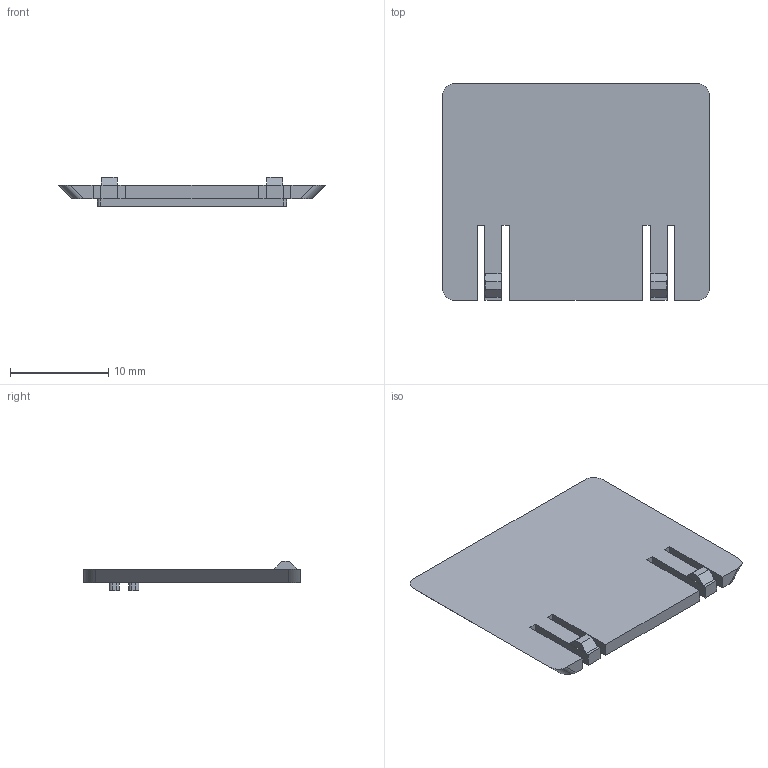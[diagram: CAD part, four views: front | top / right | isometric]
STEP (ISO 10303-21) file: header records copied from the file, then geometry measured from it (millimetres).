
FILE_DESCRIPTION(('Open CASCADE Model'),'2;1');
FILE_NAME('Open CASCADE Shape Model','2026-11-28T16:01:11',('Author'),( 'Open CASCADE'),'Open CASCADE STEP processor 8.0','build123d', 'Unknown');
FILE_SCHEMA(('AUTOMOTIVE_DESIGN { 1 0 10303 214 1 1 1 1 }'));
Length unit declared in the file: millimetre
Products named in the file (2): =>[0:1:1:2]; SOLID
Assembly tree (1 placements, depth 2):
  =>[0:1:1:2]
    SOLID
Bounding box: 27.1 x 22 x 2.95 mm (x, y, z)
Volume: 765 mm3; surface area: 1385.3 mm2
Topology: 1 solids, 1 shells, 54 faces, 144 edges, 96 vertices
Faces by surface type: plane 32, bspline 14, cylinder 8
Entity records: 3678 total; most frequent: CARTESIAN_POINT 976, DIRECTION 422, ORIENTED_EDGE 288, PCURVE 288, DEFINITIONAL_REPRESENTATION 288, LINE 274, VECTOR 274, EDGE_CURVE 144
